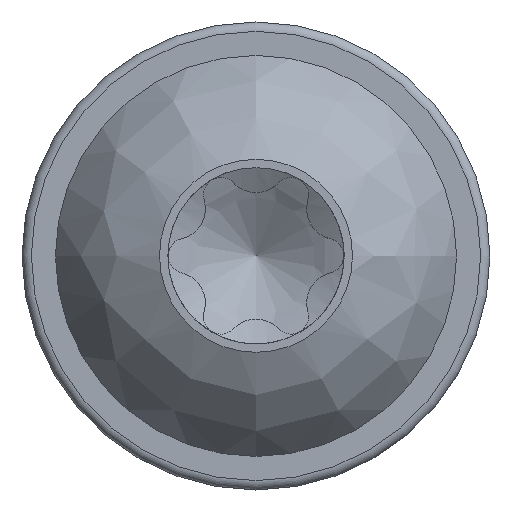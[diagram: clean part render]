
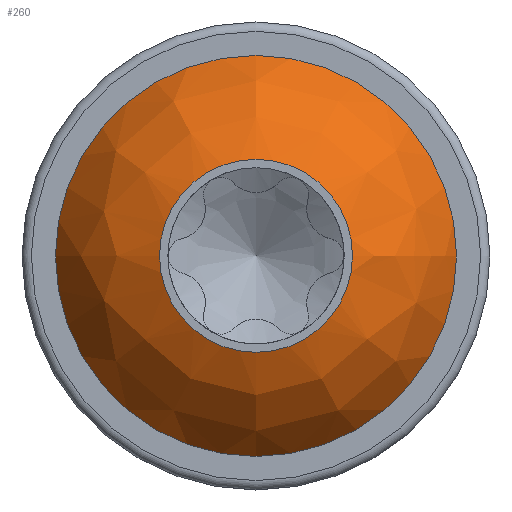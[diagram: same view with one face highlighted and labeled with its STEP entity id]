
A CAD part, top view. The second image highlights one B-rep face of the part: STEP entity #260.
In plain terms, the highlighted free-form (B-spline) face has degree [3, 3] with [4, 7] control points.
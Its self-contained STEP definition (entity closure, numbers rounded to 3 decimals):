
#212=(
BOUNDED_SURFACE()
B_SPLINE_SURFACE(3,3,((#3561,#3562,#3563,#3564,#3565,#3566,#3567),(#3568,
#3569,#3570,#3571,#3572,#3573,#3574),(#3575,#3576,#3577,#3578,#3579,#3580,
#3581),(#3582,#3583,#3584,#3585,#3586,#3587,#3588)),.UNSPECIFIED.,.F.,.T.,
 .F.)
B_SPLINE_SURFACE_WITH_KNOTS((4,4),(1,3,3,3,1),(0.,1.),(-0.5,0.,0.5,1.,1.5),
 .UNSPECIFIED.)
GEOMETRIC_REPRESENTATION_ITEM()
RATIONAL_B_SPLINE_SURFACE(((1.,0.333,0.333,1.,0.333,
0.333,1.),(0.945,0.315,0.315,
0.945,0.315,0.315,0.945),
(0.945,0.315,0.315,0.945,
0.315,0.315,0.945),(1.,0.333,
0.333,1.,0.333,0.333,1.)))
REPRESENTATION_ITEM('')
SURFACE()
);
#231=FACE_BOUND('',#432,.T.);
#232=FACE_BOUND('',#433,.T.);
#260=ADVANCED_FACE('',(#231,#232),#212,.T.);
#432=EDGE_LOOP('',(#590));
#433=EDGE_LOOP('',(#591));
#523=CIRCLE('',#1313,5.143);
#524=CIRCLE('',#1315,2.475);
#590=ORIENTED_EDGE('',*,*,#1064,.F.);
#591=ORIENTED_EDGE('',*,*,#1063,.T.);
#944=VERTEX_POINT('',#3557);
#945=VERTEX_POINT('',#3560);
#1063=EDGE_CURVE('',#944,#944,#523,.T.);
#1064=EDGE_CURVE('',#945,#945,#524,.T.);
#1313=AXIS2_PLACEMENT_3D('',#3556,#1377,#1378);
#1315=AXIS2_PLACEMENT_3D('',#3559,#1381,#1382);
#1377=DIRECTION('',(0.,0.,1.));
#1378=DIRECTION('',(1.,0.,0.));
#1381=DIRECTION('',(0.,0.,1.));
#1382=DIRECTION('',(1.,0.,0.));
#3556=CARTESIAN_POINT('',(0.,0.,1.2));
#3557=CARTESIAN_POINT('',(5.143,0.,1.2));
#3559=CARTESIAN_POINT('',(0.,0.,3.6));
#3560=CARTESIAN_POINT('',(2.475,0.,3.6));
#3561=CARTESIAN_POINT('',(2.475,0.,3.6));
#3562=CARTESIAN_POINT('',(2.475,4.95,3.6));
#3563=CARTESIAN_POINT('',(-2.475,4.95,3.6));
#3564=CARTESIAN_POINT('',(-2.475,0.,3.6));
#3565=CARTESIAN_POINT('',(-2.475,-4.95,3.6));
#3566=CARTESIAN_POINT('',(2.475,-4.95,3.6));
#3567=CARTESIAN_POINT('',(2.475,0.,3.6));
#3568=CARTESIAN_POINT('',(3.676,0.,3.199));
#3569=CARTESIAN_POINT('',(3.676,7.352,3.199));
#3570=CARTESIAN_POINT('',(-3.676,7.352,3.199));
#3571=CARTESIAN_POINT('',(-3.676,0.,3.199));
#3572=CARTESIAN_POINT('',(-3.676,-7.352,3.199));
#3573=CARTESIAN_POINT('',(3.676,-7.352,3.199));
#3574=CARTESIAN_POINT('',(3.676,0.,3.199));
#3575=CARTESIAN_POINT('',(4.617,0.,2.352));
#3576=CARTESIAN_POINT('',(4.617,9.234,2.352));
#3577=CARTESIAN_POINT('',(-4.617,9.234,2.352));
#3578=CARTESIAN_POINT('',(-4.617,0.,2.352));
#3579=CARTESIAN_POINT('',(-4.617,-9.234,2.352));
#3580=CARTESIAN_POINT('',(4.617,-9.234,2.352));
#3581=CARTESIAN_POINT('',(4.617,0.,2.352));
#3582=CARTESIAN_POINT('',(5.143,0.,1.2));
#3583=CARTESIAN_POINT('',(5.143,10.286,1.2));
#3584=CARTESIAN_POINT('',(-5.143,10.286,1.2));
#3585=CARTESIAN_POINT('',(-5.143,0.,1.2));
#3586=CARTESIAN_POINT('',(-5.143,-10.286,1.2));
#3587=CARTESIAN_POINT('',(5.143,-10.286,1.2));
#3588=CARTESIAN_POINT('',(5.143,0.,1.2));
